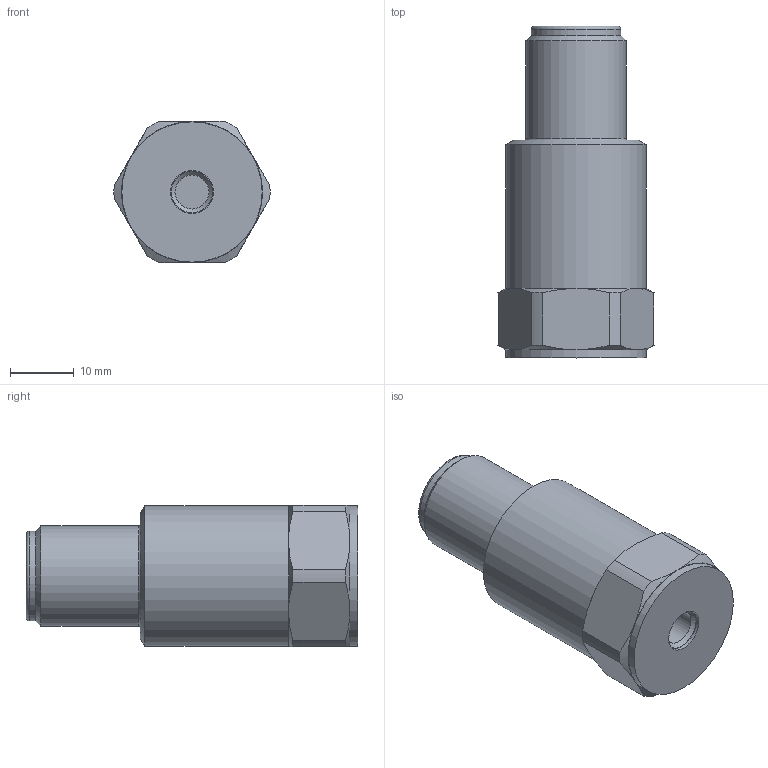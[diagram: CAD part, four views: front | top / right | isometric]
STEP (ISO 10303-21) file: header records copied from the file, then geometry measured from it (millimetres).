
FILE_DESCRIPTION(/* description */ (''),/* implementation_level */ '2;1');
FILE_NAME(/* name */ 'C:\Users\jfriend\Desktop\----Step files\Meredith Christman\627A01\627A01.stp',/* time_stamp */ '2019-12-11T10:37:42-05:00',/* author */ ('jfriend'),/* organization */ (''),/* preprocessor_version */ 'ST-DEVELOPER v17',/* originating_system */ 'Autodesk Inventor 2019',/* authorisation */ '');
FILE_SCHEMA (('AUTOMOTIVE_DESIGN { 1 0 10303 214 3 1 1 }'));
Length unit declared in the file: inch
Products named in the file (1): 627A01 
Bounding box: 24.58 x 52.25 x 22.23 mm (x, y, z)
Volume: 15254.3 mm3; surface area: 4870.7 mm2
Topology: 1 solids, 1 shells, 71 faces, 178 edges, 119 vertices
Faces by surface type: cylinder 24, plane 20, cone 20, torus 5, sphere 2
Full cylindrical faces by diameter (mm): 0.762 x1, 1.016 x2, 1.549 x2, 3.188 x2, 5.359 x1, 6.731 x1, 11.684 x1, 14.148 x1, 15.748 x1, 22.098 x2
Entity records: 2335 total; most frequent: CARTESIAN_POINT 483, DIRECTION 392, ORIENTED_EDGE 348, EDGE_CURVE 174, AXIS2_PLACEMENT_3D 174, VERTEX_POINT 119, CIRCLE 102, EDGE_LOOP 87
